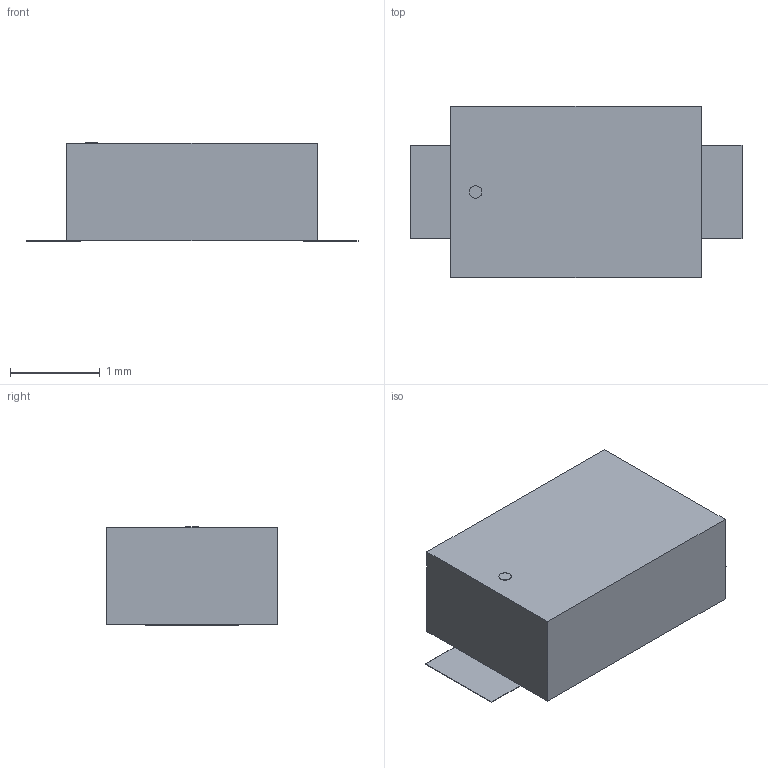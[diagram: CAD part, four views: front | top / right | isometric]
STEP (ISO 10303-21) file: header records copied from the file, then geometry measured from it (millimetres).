
FILE_DESCRIPTION(('STEP AP214'),'1');
FILE_NAME('DIODE_PMEG2010ER_115_NEX','2021-09-22T01:26:37',(''),(''),'','','');
FILE_SCHEMA(('AUTOMOTIVE_DESIGN'));
Length unit declared in the file: millimetre
Products named in the file (1): product
Bounding box: 3.7 x 1.9 x 1.09 mm (x, y, z)
Volume: 5.8 mm3; surface area: 23.5 mm2
Topology: 4 solids, 4 shells, 21 faces, 39 edges, 26 vertices
Faces by surface type: plane 20, cylinder 1
Full cylindrical faces by diameter (mm): 0.14 x1
Entity records: 544 total; most frequent: DIRECTION 86, ORIENTED_EDGE 76, CARTESIAN_POINT 51, EDGE_CURVE 38, LINE 36, VECTOR 36, VERTEX_POINT 26, AXIS2_PLACEMENT_3D 25
